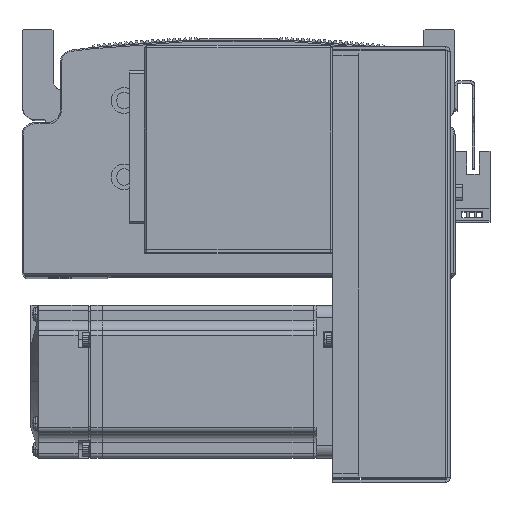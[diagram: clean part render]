
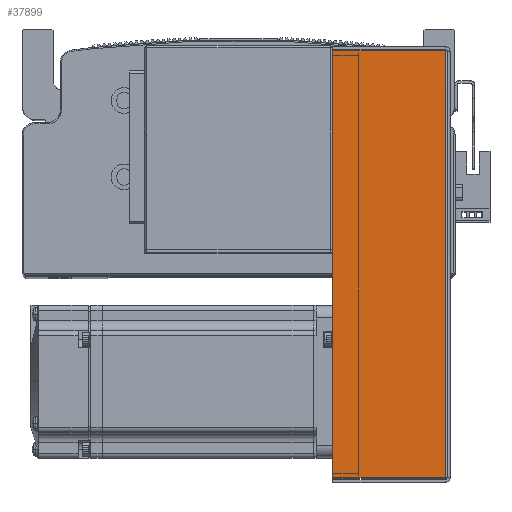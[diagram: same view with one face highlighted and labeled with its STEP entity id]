
A CAD part, top view. The second image highlights one B-rep face of the part: STEP entity #37899.
In plain terms, the highlighted planar face has unit normal (0, 0, 1) as drawn and (0, 0, -1) by its records, which use the part's own axes.
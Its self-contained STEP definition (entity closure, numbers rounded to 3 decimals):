
#1544 = AXIS2_PLACEMENT_3D ( 'NONE', #35326, #35300, #35297 ) ;
#11133 = EDGE_CURVE ( 'NONE', #47229, #47236, #70024, .T. ) ;
#11157 = EDGE_CURVE ( 'NONE', #47192, #47215, #70046, .T. ) ;
#11158 = EDGE_CURVE ( 'NONE', #47236, #47215, #70011, .T. ) ;
#11198 = EDGE_CURVE ( 'NONE', #47229, #47192, #70135, .T. ) ;
#20608 = FACE_OUTER_BOUND ( 'NONE', #66449, .T. ) ;
#35297 = DIRECTION ( 'NONE',  ( 0., -1., 0. ) ) ;
#35300 = DIRECTION ( 'NONE',  ( 0., 0., 1. ) ) ;
#35322 = PLANE ( 'NONE',  #1544 ) ;
#35326 = CARTESIAN_POINT ( 'NONE',  ( 0., 0., -40.5 ) ) ;
#37899 = ADVANCED_FACE ( 'NONE', ( #20608 ), #35322, .F. ) ;
#47192 = VERTEX_POINT ( 'NONE', #73897 ) ;
#47215 = VERTEX_POINT ( 'NONE', #74035 ) ;
#47229 = VERTEX_POINT ( 'NONE', #74061 ) ;
#47236 = VERTEX_POINT ( 'NONE', #74072 ) ;
#56240 = ORIENTED_EDGE ( 'NONE', *, *, #11198, .F. ) ;
#56296 = ORIENTED_EDGE ( 'NONE', *, *, #11133, .T. ) ;
#56307 = ORIENTED_EDGE ( 'NONE', *, *, #11158, .T. ) ;
#56352 = ORIENTED_EDGE ( 'NONE', *, *, #11157, .F. ) ;
#66449 = EDGE_LOOP ( 'NONE', ( #56240, #56296, #56307, #56352 ) ) ;
#67144 = CARTESIAN_POINT ( 'NONE',  ( 84.5, 45., -40.5 ) ) ;
#67194 = DIRECTION ( 'NONE',  ( 0., 1., 0. ) ) ;
#67207 = DIRECTION ( 'NONE',  ( 1., 0., 0. ) ) ;
#67221 = CARTESIAN_POINT ( 'NONE',  ( 83.793, 0., -40.5 ) ) ;
#67281 = CARTESIAN_POINT ( 'NONE',  ( 0., 0.737, -40.5 ) ) ;
#67314 = DIRECTION ( 'NONE',  ( 1., 0., 0. ) ) ;
#68391 = CARTESIAN_POINT ( 'NONE',  ( -83.793, 0., -40.5 ) ) ;
#68393 = DIRECTION ( 'NONE',  ( 0., 1., 0. ) ) ;
#70011 = LINE ( 'NONE', #67144, #70048 ) ;
#70024 = LINE ( 'NONE', #68391, #70033 ) ;
#70033 = VECTOR ( 'NONE', #68393, 1000. ) ;
#70046 = LINE ( 'NONE', #67221, #70047 ) ;
#70047 = VECTOR ( 'NONE', #67194, 1000. ) ;
#70048 = VECTOR ( 'NONE', #67207, 1000. ) ;
#70108 = VECTOR ( 'NONE', #67314, 1000. ) ;
#70135 = LINE ( 'NONE', #67281, #70108 ) ;
#73897 = CARTESIAN_POINT ( 'NONE',  ( 83.793, 0.737, -40.5 ) ) ;
#74035 = CARTESIAN_POINT ( 'NONE',  ( 83.793, 45., -40.5 ) ) ;
#74061 = CARTESIAN_POINT ( 'NONE',  ( -83.793, 0.737, -40.5 ) ) ;
#74072 = CARTESIAN_POINT ( 'NONE',  ( -83.793, 45., -40.5 ) ) ;
